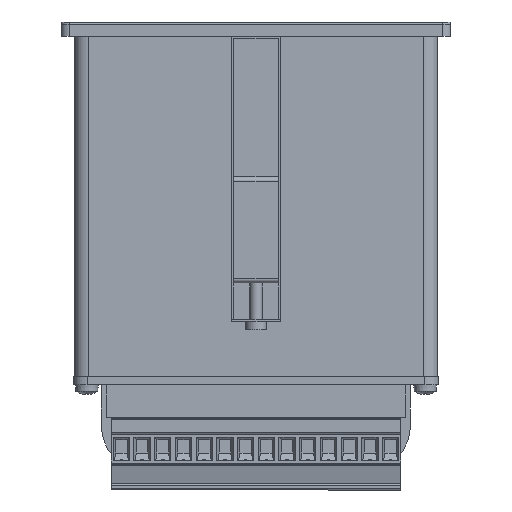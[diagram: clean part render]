
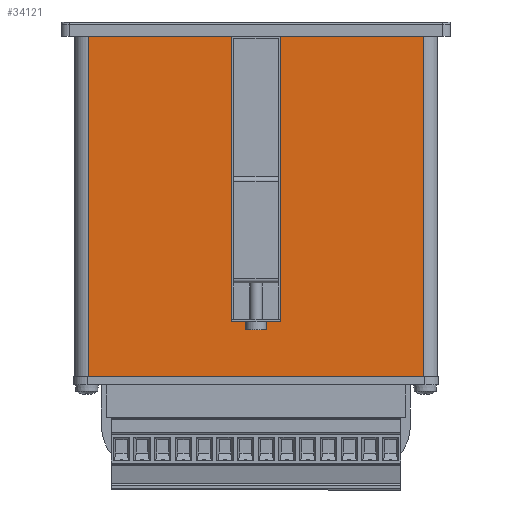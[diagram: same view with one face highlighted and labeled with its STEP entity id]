
A CAD part, front view. The second image highlights one B-rep face of the part: STEP entity #34121.
In plain terms, the highlighted planar face has unit normal (0, -1, 0) as drawn and (-1, 0, 0) by its records, which use the part's own axes.
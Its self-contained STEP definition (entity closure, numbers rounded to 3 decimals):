
#2916=PLANE('',#36557);
#4524=FACE_OUTER_BOUND('',#6503,.T.);
#6503=EDGE_LOOP('',(#26109,#26110,#26111,#26112,#26113,#26114,#26115,#26116));
#8688=LINE('',#49941,#12212);
#8693=LINE('',#49950,#12217);
#8696=LINE('',#49955,#12220);
#8702=LINE('',#49976,#12226);
#8710=LINE('',#49999,#12234);
#8894=LINE('',#50584,#12418);
#8901=LINE('',#50605,#12425);
#8902=LINE('',#50607,#12426);
#12212=VECTOR('',#40199,10.);
#12217=VECTOR('',#40206,10.);
#12220=VECTOR('',#40211,10.);
#12226=VECTOR('',#40229,10.);
#12234=VECTOR('',#40245,10.);
#12418=VECTOR('',#40879,10.);
#12425=VECTOR('',#40904,10.);
#12426=VECTOR('',#40907,10.);
#16876=VERTEX_POINT('',#49939);
#16877=VERTEX_POINT('',#49940);
#16880=VERTEX_POINT('',#49949);
#16881=VERTEX_POINT('',#49953);
#16890=VERTEX_POINT('',#49975);
#16901=VERTEX_POINT('',#49997);
#17077=VERTEX_POINT('',#50583);
#17082=VERTEX_POINT('',#50603);
#20162=EDGE_CURVE('',#16876,#16877,#8688,.T.);
#20167=EDGE_CURVE('',#16880,#16876,#8693,.T.);
#20170=EDGE_CURVE('',#16877,#16881,#8696,.T.);
#20180=EDGE_CURVE('',#16880,#16890,#8702,.T.);
#20192=EDGE_CURVE('',#16901,#16881,#8710,.T.);
#20480=EDGE_CURVE('',#16890,#17077,#8894,.T.);
#20491=EDGE_CURVE('',#16901,#17082,#8901,.T.);
#20492=EDGE_CURVE('',#17077,#17082,#8902,.T.);
#26109=ORIENTED_EDGE('',*,*,#20170,.T.);
#26110=ORIENTED_EDGE('',*,*,#20192,.F.);
#26111=ORIENTED_EDGE('',*,*,#20491,.T.);
#26112=ORIENTED_EDGE('',*,*,#20492,.F.);
#26113=ORIENTED_EDGE('',*,*,#20480,.F.);
#26114=ORIENTED_EDGE('',*,*,#20180,.F.);
#26115=ORIENTED_EDGE('',*,*,#20167,.T.);
#26116=ORIENTED_EDGE('',*,*,#20162,.T.);
#34121=ADVANCED_FACE('',(#4524),#2916,.T.);
#36557=AXIS2_PLACEMENT_3D('',#50606,#40905,#40906);
#40199=DIRECTION('',(0.,-1.,0.));
#40206=DIRECTION('',(0.,0.,1.));
#40211=DIRECTION('',(0.,0.,-1.));
#40229=DIRECTION('',(0.,1.,0.));
#40245=DIRECTION('',(0.,1.,0.));
#40879=DIRECTION('',(0.,0.,1.));
#40904=DIRECTION('',(0.,0.,1.));
#40905=DIRECTION('center_axis',(-1.,0.,0.));
#40906=DIRECTION('ref_axis',(0.,-1.,0.));
#40907=DIRECTION('',(0.,-1.,0.));
#49939=CARTESIAN_POINT('',(-44.5,6.,73.5));
#49940=CARTESIAN_POINT('',(-44.5,-6.,73.5));
#49941=CARTESIAN_POINT('',(-44.5,23.6,73.5));
#49949=CARTESIAN_POINT('',(-44.5,6.,3.5));
#49950=CARTESIAN_POINT('',(-44.5,6.,3.5));
#49953=CARTESIAN_POINT('',(-44.5,-6.,3.5));
#49955=CARTESIAN_POINT('',(-44.5,-6.,38.5));
#49975=CARTESIAN_POINT('',(-44.5,41.2,3.5));
#49976=CARTESIAN_POINT('',(-44.5,20.6,3.5));
#49997=CARTESIAN_POINT('',(-44.5,-41.2,3.5));
#49999=CARTESIAN_POINT('',(-44.5,20.6,3.5));
#50583=CARTESIAN_POINT('',(-44.5,41.2,87.));
#50584=CARTESIAN_POINT('',(-44.5,41.2,3.5));
#50603=CARTESIAN_POINT('',(-44.5,-41.2,87.));
#50605=CARTESIAN_POINT('',(-44.5,-41.2,3.5));
#50606=CARTESIAN_POINT('Origin',(-44.5,41.2,3.5));
#50607=CARTESIAN_POINT('',(-44.5,41.2,87.));
